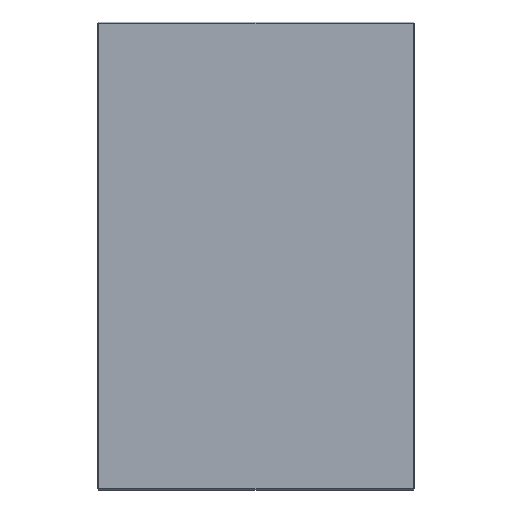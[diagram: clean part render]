
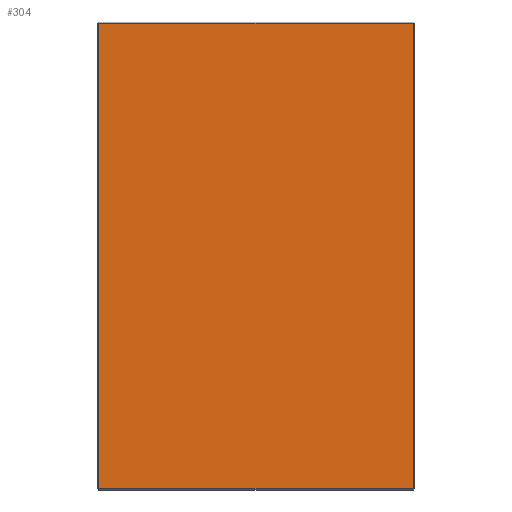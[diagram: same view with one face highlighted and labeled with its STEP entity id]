
A CAD part, top view. The second image highlights one B-rep face of the part: STEP entity #304.
In plain terms, the highlighted planar face has unit normal (0, 0, 1).
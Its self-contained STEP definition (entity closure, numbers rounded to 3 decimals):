
#19 = VECTOR ( 'NONE', #367, 1000. ) ;
#46 = FACE_OUTER_BOUND ( 'NONE', #414, .T. ) ;
#48 = EDGE_CURVE ( 'NONE', #424, #190, #209, .T. ) ;
#52 = ORIENTED_EDGE ( 'NONE', *, *, #279, .T. ) ;
#62 = ORIENTED_EDGE ( 'NONE', *, *, #48, .T. ) ;
#70 = ORIENTED_EDGE ( 'NONE', *, *, #505, .T. ) ;
#72 = ORIENTED_EDGE ( 'NONE', *, *, #409, .T. ) ;
#74 = PLANE ( 'NONE',  #442 ) ;
#110 = CARTESIAN_POINT ( 'NONE',  ( -133., -198., 17. ) ) ;
#167 = CARTESIAN_POINT ( 'NONE',  ( 0., 0., 17. ) ) ;
#184 = LINE ( 'NONE', #110, #412 ) ;
#190 = VERTEX_POINT ( 'NONE', #430 ) ;
#205 = DIRECTION ( 'NONE',  ( 0., 0., 1. ) ) ;
#209 = LINE ( 'NONE', #381, #617 ) ;
#216 = CARTESIAN_POINT ( 'NONE',  ( -133., -197., 17. ) ) ;
#231 = CARTESIAN_POINT ( 'NONE',  ( 133., -197., 17. ) ) ;
#252 = DIRECTION ( 'NONE',  ( 0., -1., 0. ) ) ;
#279 = EDGE_CURVE ( 'NONE', #190, #463, #616, .T. ) ;
#284 = DIRECTION ( 'NONE',  ( 0., 1., 0. ) ) ;
#304 = ADVANCED_FACE ( 'NONE', ( #46 ), #74, .T. ) ;
#367 = DIRECTION ( 'NONE',  ( 1., 0., 0. ) ) ;
#381 = CARTESIAN_POINT ( 'NONE',  ( 133., 198., 17. ) ) ;
#394 = CARTESIAN_POINT ( 'NONE',  ( 134., -197., 17. ) ) ;
#409 = EDGE_CURVE ( 'NONE', #582, #424, #630, .T. ) ;
#412 = VECTOR ( 'NONE', #252, 1000. ) ;
#414 = EDGE_LOOP ( 'NONE', ( #62, #52, #70, #72 ) ) ;
#424 = VERTEX_POINT ( 'NONE', #231 ) ;
#430 = CARTESIAN_POINT ( 'NONE',  ( 133., 197., 17. ) ) ;
#442 = AXIS2_PLACEMENT_3D ( 'NONE', #167, #205, #634 ) ;
#463 = VERTEX_POINT ( 'NONE', #573 ) ;
#473 = DIRECTION ( 'NONE',  ( -1., 0., 0. ) ) ;
#505 = EDGE_CURVE ( 'NONE', #463, #582, #184, .T. ) ;
#519 = VECTOR ( 'NONE', #473, 1000. ) ;
#573 = CARTESIAN_POINT ( 'NONE',  ( -133., 197., 17. ) ) ;
#582 = VERTEX_POINT ( 'NONE', #216 ) ;
#616 = LINE ( 'NONE', #629, #519 ) ;
#617 = VECTOR ( 'NONE', #284, 1000. ) ;
#629 = CARTESIAN_POINT ( 'NONE',  ( -134., 197., 17. ) ) ;
#630 = LINE ( 'NONE', #394, #19 ) ;
#634 = DIRECTION ( 'NONE',  ( 1., 0., 0. ) ) ;
